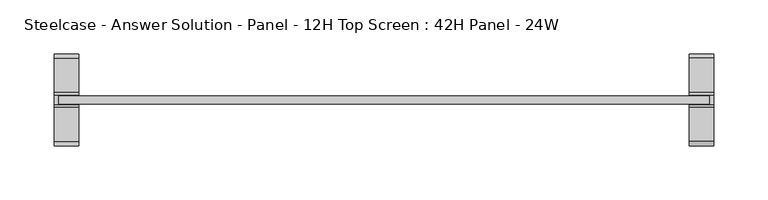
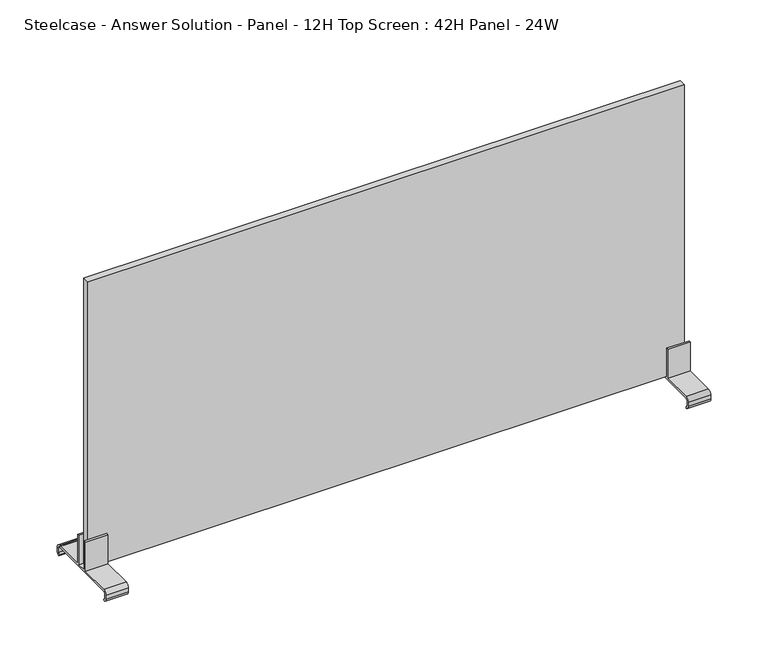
"""IFC4 building model written with IfcOpenShell, lengths in millimetres: furniture geometry, Steelcase - Answer Solution - Panel - 12H Top Screen : 42H Panel - 24W."""

from ifc_helpers import new_model, si_unit, point, frame, frame_2d, origin, place, context, project, spatial, polyline, circle_curve, trimmed, segment, composite_curve, outline, extrude, source, transform, mapped, element, save


def steelcase_answer_solution_panel_12h_top_screen_42h_panel_24w_cda495ba(model_context):
    return source(origin(), model_context, "Body", "SweptSolid", [
        extrude(outline(polyline([(300.736, -3.683001), (-300.736, -3.683001), (-300.736, 3.683001), (300.736, 3.683001), (300.736, -3.683001)])), frame((0.0, 0.0, 1075.1819981), z_axis=(0.0, 0.0, 1.0), x_axis=(1.0, 0.0, 0.0)), (0.0, 0.0, 1.0), 304.8),
        extrude(outline(composite_curve([segment(trimmed(circle_curve(frame_2d((38.5445, 1071.245)), 1.905), [point((40.4495, 1071.245))], [point((38.5445, 1073.15))], True, "CARTESIAN"), True, "CONTINUOUS"), segment(polyline([(38.5445, 1073.15), (-38.5445, 1073.15)]), True, "CONTINUOUS"), segment(trimmed(circle_curve(frame_2d((-38.5445, 1071.245)), 1.905), [point((-38.5445, 1073.15))], [point((-40.4495, 1071.245))], True, "CARTESIAN"), True, "CONTINUOUS"), segment(polyline([(-40.4495, 1071.245), (-40.4495, 1066.6341187)]), True, "CONTINUOUS"), segment(trimmed(circle_curve(frame_2d((-38.5445, 1066.6341187)), 1.905), [point((-40.4495, 1066.6341187))], [point((-38.6743328, 1064.7335481))], True, "CARTESIAN"), True, "CONTINUOUS"), segment(polyline([(-38.6743328, 1064.7335481), (-39.2392449, 1063.1535566)]), True, "CONTINUOUS"), segment(trimmed(circle_curve(frame_2d((-38.5459934, 1067.0284569)), 3.9364261), [point((-39.2392449, 1063.1535566))], [point((-42.4824195, 1067.0284569))], False, "CARTESIAN"), True, "CONTINUOUS"), segment(polyline([(-42.4824195, 1067.0284569), (-42.4824195, 1071.2452288)]), True, "CONTINUOUS"), segment(trimmed(circle_curve(frame_2d((-38.5459934, 1071.2452288)), 3.9364261), [point((-42.4824195, 1071.2452288))], [point((-38.5459934, 1075.1816549))], False, "CARTESIAN"), True, "CONTINUOUS"), segment(polyline([(-38.5459934, 1075.1816549), (-6.7310004, 1075.1816549), (-6.7310004, 1106.1699952), (-4.699, 1106.1699952), (-4.699, 1075.1819952), (4.699, 1075.1819952), (4.699, 1106.1700048), (6.7310004, 1106.1700048), (6.7310004, 1075.1816549), (38.5459934, 1075.1816549)]), True, "CONTINUOUS"), segment(trimmed(circle_curve(frame_2d((38.5459934, 1071.2452288)), 3.9364261), [point((38.5459934, 1075.1816549))], [point((42.4824195, 1071.2452288))], False, "CARTESIAN"), True, "CONTINUOUS"), segment(polyline([(42.4824195, 1071.2452288), (42.4824195, 1067.0284569)]), True, "CONTINUOUS"), segment(trimmed(circle_curve(frame_2d((38.5459934, 1067.0284569)), 3.9364261), [point((42.4824195, 1067.0284569))], [point((39.6631716, 1063.2538889))], False, "CARTESIAN"), True, "CONTINUOUS"), segment(polyline([(39.6631716, 1063.2538889), (39.1055128, 1064.8135996)]), True, "CONTINUOUS"), segment(trimmed(circle_curve(frame_2d((38.5445, 1066.6341187)), 1.905), [point((39.1055128, 1064.8135996))], [point((40.4495, 1066.6341187))], True, "CARTESIAN"), True, "CONTINUOUS"), segment(polyline([(40.4495, 1066.6341187), (40.4495, 1071.245)]), True, "CONTINUOUS")], self_intersect=False)), frame((282.194, 0.0, 0.0), z_axis=(1.0, 0.0, 0.0), x_axis=(0.0, 1.0, 0.0)), (0.0, 0.0, 1.0), 22.606),
        extrude(outline(composite_curve([segment(trimmed(circle_curve(frame_2d((38.5445, 1071.245)), 1.905), [point((40.4495, 1071.245))], [point((38.5445, 1073.15))], True, "CARTESIAN"), True, "CONTINUOUS"), segment(polyline([(38.5445, 1073.15), (-38.5445, 1073.15)]), True, "CONTINUOUS"), segment(trimmed(circle_curve(frame_2d((-38.5445, 1071.245)), 1.905), [point((-38.5445, 1073.15))], [point((-40.4495, 1071.245))], True, "CARTESIAN"), True, "CONTINUOUS"), segment(polyline([(-40.4495, 1071.245), (-40.4495, 1066.6341187)]), True, "CONTINUOUS"), segment(trimmed(circle_curve(frame_2d((-38.5445, 1066.6341187)), 1.905), [point((-40.4495, 1066.6341187))], [point((-38.6743328, 1064.7335481))], True, "CARTESIAN"), True, "CONTINUOUS"), segment(polyline([(-38.6743328, 1064.7335481), (-39.2392449, 1063.1535566)]), True, "CONTINUOUS"), segment(trimmed(circle_curve(frame_2d((-38.5459934, 1067.0284569)), 3.9364261), [point((-39.2392449, 1063.1535566))], [point((-42.4824195, 1067.0284569))], False, "CARTESIAN"), True, "CONTINUOUS"), segment(polyline([(-42.4824195, 1067.0284569), (-42.4824195, 1071.2452288)]), True, "CONTINUOUS"), segment(trimmed(circle_curve(frame_2d((-38.5459934, 1071.2452288)), 3.9364261), [point((-42.4824195, 1071.2452288))], [point((-38.5459934, 1075.1816549))], False, "CARTESIAN"), True, "CONTINUOUS"), segment(polyline([(-38.5459934, 1075.1816549), (-6.7310004, 1075.1816549), (-6.7310004, 1106.1699952), (-4.699, 1106.1699952), (-4.699, 1075.1819952), (4.699, 1075.1819952), (4.699, 1106.1700048), (6.7310004, 1106.1700048), (6.7310004, 1075.1816549), (38.5459934, 1075.1816549)]), True, "CONTINUOUS"), segment(trimmed(circle_curve(frame_2d((38.5459934, 1071.2452288)), 3.9364261), [point((38.5459934, 1075.1816549))], [point((42.4824195, 1071.2452288))], False, "CARTESIAN"), True, "CONTINUOUS"), segment(polyline([(42.4824195, 1071.2452288), (42.4824195, 1067.0284569)]), True, "CONTINUOUS"), segment(trimmed(circle_curve(frame_2d((38.5459934, 1067.0284569)), 3.9364261), [point((42.4824195, 1067.0284569))], [point((39.6631716, 1063.2538889))], False, "CARTESIAN"), True, "CONTINUOUS"), segment(polyline([(39.6631716, 1063.2538889), (39.1055128, 1064.8135996)]), True, "CONTINUOUS"), segment(trimmed(circle_curve(frame_2d((38.5445, 1066.6341187)), 1.905), [point((39.1055128, 1064.8135996))], [point((40.4495, 1066.6341187))], True, "CARTESIAN"), True, "CONTINUOUS"), segment(polyline([(40.4495, 1066.6341187), (40.4495, 1071.245)]), True, "CONTINUOUS")], self_intersect=False)), frame((-304.8, 0.0, 0.0), z_axis=(1.0, 0.0, 0.0), x_axis=(0.0, 1.0, 0.0)), (0.0, 0.0, 1.0), 22.606),
    ])


if __name__ == "__main__":
    model = new_model("IFC4")
    model_context = context("Model", 3, world=origin())
    ifc_project = project(units=[si_unit("LENGTHUNIT", "METRE", prefix="MILLI")], contexts=[model_context])
    site = spatial("IfcSite", under=ifc_project)
    building = spatial("IfcBuilding", under=site)
    placement = place(None, origin())
    steelcase_answer_solution_panel_12h_top_screen_42h_panel_24w_shape = steelcase_answer_solution_panel_12h_top_screen_42h_panel_24w_cda495ba(model_context)
    element("IfcFurniture", 1, ObjectType="Steelcase - Answer Solution - Panel - 12H Top Screen : 42H Panel - 24W", at=placement, inside=building, context=model_context, shape_type="MappedRepresentation", body=[
        mapped(steelcase_answer_solution_panel_12h_top_screen_42h_panel_24w_shape, transform((0.0, 0.0, 0.0), x_axis=(1.0, 0.0, 0.0), y_axis=(0.0, 1.0, 0.0), z_axis=(0.0, 0.0, 1.0))),
    ])
    save(model, "model.ifc")
